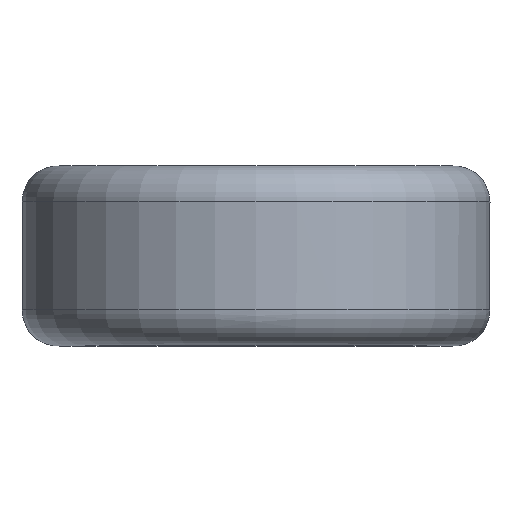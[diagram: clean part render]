
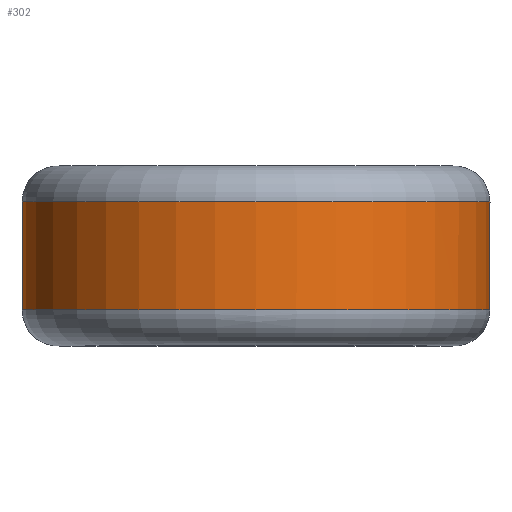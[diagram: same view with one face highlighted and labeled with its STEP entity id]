
A CAD part, top view. The second image highlights one B-rep face of the part: STEP entity #302.
In plain terms, the highlighted cylindrical face has radius 6.5 mm (diameter 13 mm), a full revolution.
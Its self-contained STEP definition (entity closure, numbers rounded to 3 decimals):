
#24=B_SPLINE_CURVE_WITH_KNOTS('',3,(#1079,#1080,#1081,#1082,#1083,#1084,
#1085,#1086,#1087,#1088),.UNSPECIFIED.,.F.,.F.,(4,1,1,1,1,1,1,4),(-0.219,
-0.188,-0.156,-0.125,-0.094,
-0.063,-0.031,0.),.UNSPECIFIED.);
#26=B_SPLINE_CURVE_WITH_KNOTS('',3,(#1150,#1151,#1152,#1153,#1154,#1155,
#1156,#1157,#1158,#1159),.UNSPECIFIED.,.F.,.F.,(4,1,1,1,1,1,1,4),(-0.219,
-0.188,-0.156,-0.125,-0.094,
-0.047,-0.031,0.),.UNSPECIFIED.);
#72=FACE_OUTER_BOUND('',#92,.T.);
#92=EDGE_LOOP('',(#241,#242,#243,#244,#245,#246,#247,#248,#249,#250));
#105=LINE('',#1144,#108);
#108=VECTOR('',#407,6.5);
#120=CIRCLE('',#347,6.5);
#121=CIRCLE('',#348,6.5);
#122=CIRCLE('',#349,6.5);
#123=CIRCLE('',#351,6.5);
#124=CIRCLE('',#352,6.5);
#125=CIRCLE('',#353,6.5);
#143=VERTEX_POINT('',#1075);
#144=VERTEX_POINT('',#1077);
#147=VERTEX_POINT('',#1136);
#148=VERTEX_POINT('',#1139);
#149=VERTEX_POINT('',#1143);
#150=VERTEX_POINT('',#1145);
#151=VERTEX_POINT('',#1147);
#152=VERTEX_POINT('',#1149);
#176=EDGE_CURVE('',#143,#144,#24,.T.);
#181=EDGE_CURVE('',#144,#147,#120,.T.);
#182=EDGE_CURVE('',#148,#143,#121,.T.);
#183=EDGE_CURVE('',#147,#148,#122,.T.);
#184=EDGE_CURVE('',#148,#149,#105,.T.);
#185=EDGE_CURVE('',#149,#150,#123,.T.);
#186=EDGE_CURVE('',#150,#151,#124,.T.);
#187=EDGE_CURVE('',#151,#152,#26,.T.);
#188=EDGE_CURVE('',#152,#149,#125,.T.);
#241=ORIENTED_EDGE('',*,*,#176,.T.);
#242=ORIENTED_EDGE('',*,*,#181,.T.);
#243=ORIENTED_EDGE('',*,*,#183,.T.);
#244=ORIENTED_EDGE('',*,*,#184,.T.);
#245=ORIENTED_EDGE('',*,*,#185,.T.);
#246=ORIENTED_EDGE('',*,*,#186,.T.);
#247=ORIENTED_EDGE('',*,*,#187,.T.);
#248=ORIENTED_EDGE('',*,*,#188,.T.);
#249=ORIENTED_EDGE('',*,*,#184,.F.);
#250=ORIENTED_EDGE('',*,*,#182,.T.);
#292=CYLINDRICAL_SURFACE('',#350,6.5);
#302=ADVANCED_FACE('',(#72),#292,.T.);
#347=AXIS2_PLACEMENT_3D('',#1138,#399,#400);
#348=AXIS2_PLACEMENT_3D('',#1140,#401,#402);
#349=AXIS2_PLACEMENT_3D('',#1141,#403,#404);
#350=AXIS2_PLACEMENT_3D('',#1142,#405,#406);
#351=AXIS2_PLACEMENT_3D('',#1146,#408,#409);
#352=AXIS2_PLACEMENT_3D('',#1148,#410,#411);
#353=AXIS2_PLACEMENT_3D('',#1160,#412,#413);
#399=DIRECTION('center_axis',(0.,-1.,0.));
#400=DIRECTION('ref_axis',(-1.,0.,0.));
#401=DIRECTION('center_axis',(0.,-1.,0.));
#402=DIRECTION('ref_axis',(-1.,0.,0.));
#403=DIRECTION('center_axis',(0.,-1.,0.));
#404=DIRECTION('ref_axis',(-1.,0.,0.));
#405=DIRECTION('center_axis',(0.,-1.,0.));
#406=DIRECTION('ref_axis',(1.,0.,0.));
#407=DIRECTION('',(0.,-1.,0.));
#408=DIRECTION('center_axis',(0.,1.,0.));
#409=DIRECTION('ref_axis',(-1.,0.,0.));
#410=DIRECTION('center_axis',(0.,1.,0.));
#411=DIRECTION('ref_axis',(-1.,0.,0.));
#412=DIRECTION('center_axis',(0.,1.,0.));
#413=DIRECTION('ref_axis',(-1.,0.,0.));
#1075=CARTESIAN_POINT('',(-4.226,1.5,-4.939));
#1077=CARTESIAN_POINT('',(-3.435,1.5,-5.518));
#1079=CARTESIAN_POINT('Ctrl Pts',(-4.226,1.5,-4.939));
#1080=CARTESIAN_POINT('Ctrl Pts',(-4.257,1.404,-4.912));
#1081=CARTESIAN_POINT('Ctrl Pts',(-4.278,1.189,-4.894));
#1082=CARTESIAN_POINT('Ctrl Pts',(-4.18,0.892,-4.979));
#1083=CARTESIAN_POINT('Ctrl Pts',(-3.972,0.711,-5.149));
#1084=CARTESIAN_POINT('Ctrl Pts',(-3.712,0.714,-5.339));
#1085=CARTESIAN_POINT('Ctrl Pts',(-3.488,0.893,-5.486));
#1086=CARTESIAN_POINT('Ctrl Pts',(-3.375,1.189,-5.555));
#1087=CARTESIAN_POINT('Ctrl Pts',(-3.399,1.405,-5.54));
#1088=CARTESIAN_POINT('Ctrl Pts',(-3.435,1.5,-5.518));
#1136=CARTESIAN_POINT('',(0.,1.5,-6.5));
#1138=CARTESIAN_POINT('Origin',(0.,1.5,0.));
#1139=CARTESIAN_POINT('',(-6.5,1.5,0.));
#1140=CARTESIAN_POINT('Origin',(0.,1.5,0.));
#1141=CARTESIAN_POINT('Origin',(0.,1.5,0.));
#1142=CARTESIAN_POINT('Origin',(0.,0.,0.));
#1143=CARTESIAN_POINT('',(-6.5,-1.5,0.));
#1144=CARTESIAN_POINT('',(-6.5,0.,0.));
#1145=CARTESIAN_POINT('',(0.,-1.5,6.5));
#1146=CARTESIAN_POINT('Origin',(0.,-1.5,0.));
#1147=CARTESIAN_POINT('',(4.226,-1.5,-4.939));
#1148=CARTESIAN_POINT('Origin',(0.,-1.5,0.));
#1149=CARTESIAN_POINT('',(3.435,-1.5,-5.518));
#1150=CARTESIAN_POINT('Ctrl Pts',(4.226,-1.5,-4.939));
#1151=CARTESIAN_POINT('Ctrl Pts',(4.257,-1.404,-4.912));
#1152=CARTESIAN_POINT('Ctrl Pts',(4.278,-1.19,-4.894));
#1153=CARTESIAN_POINT('Ctrl Pts',(4.179,-0.892,-4.979));
#1154=CARTESIAN_POINT('Ctrl Pts',(3.972,-0.712,-5.149));
#1155=CARTESIAN_POINT('Ctrl Pts',(3.668,-0.713,-5.371));
#1156=CARTESIAN_POINT('Ctrl Pts',(3.456,-0.94,-5.506));
#1157=CARTESIAN_POINT('Ctrl Pts',(3.381,-1.244,-5.551));
#1158=CARTESIAN_POINT('Ctrl Pts',(3.399,-1.405,-5.54));
#1159=CARTESIAN_POINT('Ctrl Pts',(3.435,-1.5,-5.518));
#1160=CARTESIAN_POINT('Origin',(0.,-1.5,0.));
